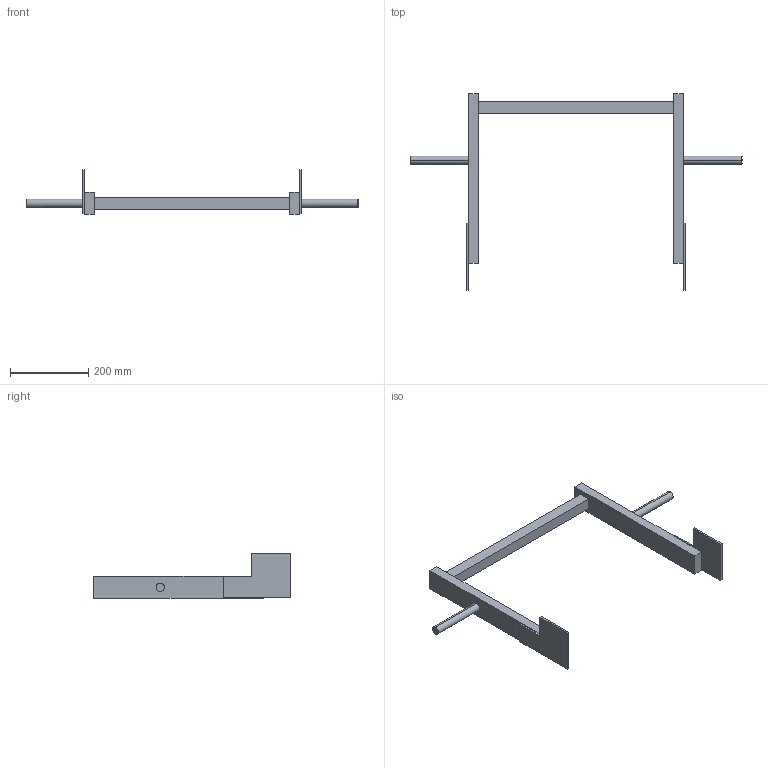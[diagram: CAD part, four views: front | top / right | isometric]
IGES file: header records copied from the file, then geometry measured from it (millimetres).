
Start section:  PTC IGES file: 52330716.igs
Global section: file name: 52330716.igs; native system: Creo Parametric by PTC Inc.; preprocessor: 2022162; author: wep; organization: Unknown; date: 20241218.082107; units: millimetre
Bounding box: 850 x 503 x 115 mm (x, y, z)
Surface area: 270554.8 mm2 (no closed solid volume)
Topology: 0 solids, 0 shells, 38 faces, 184 edges, 184 vertices
Faces by surface type: bspline 34, revolution 4
